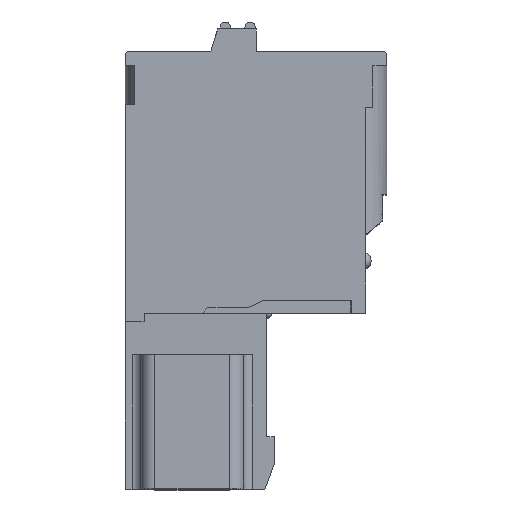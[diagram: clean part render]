
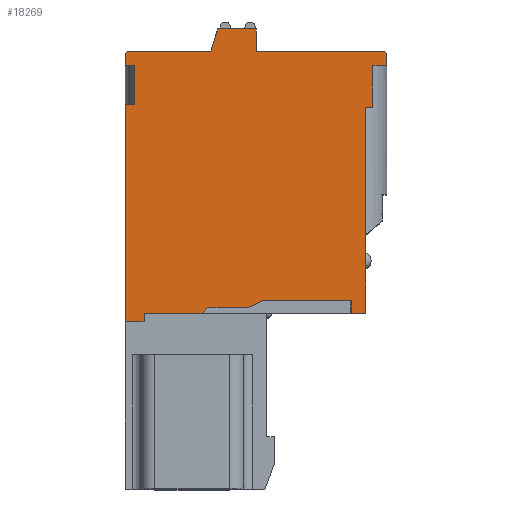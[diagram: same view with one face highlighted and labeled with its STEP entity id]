
A CAD part, top view. The second image highlights one B-rep face of the part: STEP entity #18269.
In plain terms, the highlighted planar face has unit normal (0, 0, 1).
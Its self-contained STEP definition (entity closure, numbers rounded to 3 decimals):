
#105=DIRECTION('',(-1.,0.,0.));
#106=VECTOR('',#105,7.3);
#107=CARTESIAN_POINT('',(14.8,25.1,-6.173));
#108=LINE('',#107,#106);
#219=DIRECTION('',(-1.,0.,0.));
#220=VECTOR('',#219,4.703);
#221=CARTESIAN_POINT('',(4.903,25.1,-6.173));
#222=LINE('',#221,#220);
#3667=DIRECTION('',(0.,1.,0.));
#3668=VECTOR('',#3667,0.5);
#3669=CARTESIAN_POINT('',(1.079,9.6,-6.173));
#3670=LINE('',#3669,#3668);
#3827=DIRECTION('',(1.,0.,0.));
#3828=VECTOR('',#3827,3.36);
#3829=CARTESIAN_POINT('',(1.079,10.1,-6.173));
#3830=LINE('',#3829,#3828);
#3883=DIRECTION('',(0.,1.,0.));
#3884=VECTOR('',#3883,0.7);
#3885=CARTESIAN_POINT('',(13.,10.1,-6.173));
#3886=LINE('',#3885,#3884);
#3887=DIRECTION('',(-1.,0.,0.));
#3888=VECTOR('',#3887,5.111);
#3889=CARTESIAN_POINT('',(13.,10.8,-6.173));
#3890=LINE('',#3889,#3888);
#3891=DIRECTION('',(-0.91,-0.414,0.));
#3892=VECTOR('',#3891,0.967);
#3893=CARTESIAN_POINT('',(7.889,10.8,-6.173));
#3894=LINE('',#3893,#3892);
#3895=DIRECTION('',(-1.,0.,0.));
#3896=VECTOR('',#3895,2.27);
#3897=CARTESIAN_POINT('',(7.009,10.4,-6.173));
#3898=LINE('',#3897,#3896);
#3899=DIRECTION('',(-0.707,-0.707,0.));
#3900=VECTOR('',#3899,0.424);
#3901=CARTESIAN_POINT('',(4.739,10.4,-6.173));
#3902=LINE('',#3901,#3900);
#3903=DIRECTION('',(-1.,0.,0.));
#3904=VECTOR('',#3903,1.07);
#3905=CARTESIAN_POINT('',(1.079,9.6,-6.173));
#3906=LINE('',#3905,#3904);
#3907=DIRECTION('',(-1.,0.,0.));
#3908=VECTOR('',#3907,0.009);
#3909=CARTESIAN_POINT('',(0.009,9.6,-6.173));
#3910=LINE('',#3909,#3908);
#3911=DIRECTION('',(0.,1.,0.));
#3912=VECTOR('',#3911,12.45);
#3913=CARTESIAN_POINT('',(0.,9.6,-6.173));
#3914=LINE('',#3913,#3912);
#3915=DIRECTION('',(1.,0.,0.));
#3916=VECTOR('',#3915,0.55);
#3917=CARTESIAN_POINT('',(0.,22.05,-6.173));
#3918=LINE('',#3917,#3916);
#3919=DIRECTION('',(0.,1.,0.));
#3920=VECTOR('',#3919,2.25);
#3921=CARTESIAN_POINT('',(0.55,22.05,-6.173));
#3922=LINE('',#3921,#3920);
#3923=DIRECTION('',(0.,1.,0.));
#3924=VECTOR('',#3923,0.6);
#3925=CARTESIAN_POINT('',(0.,24.3,-6.173));
#3926=LINE('',#3925,#3924);
#3927=CARTESIAN_POINT('',(0.2,24.9,-6.173));
#3928=DIRECTION('',(0.,0.,-1.));
#3929=DIRECTION('',(-1.,0.,0.));
#3930=AXIS2_PLACEMENT_3D('',#3927,#3928,#3929);
#3932=DIRECTION('',(0.292,0.956,0.));
#3933=VECTOR('',#3932,1.359);
#3934=CARTESIAN_POINT('',(4.903,25.1,-6.173));
#3935=LINE('',#3934,#3933);
#3936=DIRECTION('',(1.,0.,0.));
#3937=VECTOR('',#3936,2.2);
#3938=CARTESIAN_POINT('',(5.3,26.4,-6.173));
#3939=LINE('',#3938,#3937);
#3940=DIRECTION('',(0.,-1.,0.));
#3941=VECTOR('',#3940,1.3);
#3942=CARTESIAN_POINT('',(7.5,26.4,-6.173));
#3943=LINE('',#3942,#3941);
#3944=CARTESIAN_POINT('',(14.8,24.9,-6.173));
#3945=DIRECTION('',(0.,0.,-1.));
#3946=DIRECTION('',(0.,1.,0.));
#3947=AXIS2_PLACEMENT_3D('',#3944,#3945,#3946);
#3949=DIRECTION('',(0.,-1.,0.));
#3950=VECTOR('',#3949,0.6);
#3951=CARTESIAN_POINT('',(15.,24.9,-6.173));
#3952=LINE('',#3951,#3950);
#3953=DIRECTION('',(-1.,0.,0.));
#3954=VECTOR('',#3953,0.8);
#3955=CARTESIAN_POINT('',(15.,24.3,-6.173));
#3956=LINE('',#3955,#3954);
#3957=DIRECTION('',(0.,-1.,0.));
#3958=VECTOR('',#3957,2.4);
#3959=CARTESIAN_POINT('',(14.2,24.3,-6.173));
#3960=LINE('',#3959,#3958);
#3961=DIRECTION('',(-1.,0.,0.));
#3962=VECTOR('',#3961,0.4);
#3963=CARTESIAN_POINT('',(14.2,21.9,-6.173));
#3964=LINE('',#3963,#3962);
#3965=DIRECTION('',(0.,-1.,0.));
#3966=VECTOR('',#3965,11.8);
#3967=CARTESIAN_POINT('',(13.8,21.9,-6.173));
#3968=LINE('',#3967,#3966);
#3969=DIRECTION('',(-1.,0.,0.));
#3970=VECTOR('',#3969,0.8);
#3971=CARTESIAN_POINT('',(13.8,10.1,-6.173));
#3972=LINE('',#3971,#3970);
#5326=DIRECTION('',(1.,0.,0.));
#5327=VECTOR('',#5326,0.55);
#5328=CARTESIAN_POINT('',(0.,24.3,-6.173));
#5329=LINE('',#5328,#5327);
#7321=CARTESIAN_POINT('',(0.009,9.6,-6.173));
#7322=VERTEX_POINT('',#7321);
#7323=CARTESIAN_POINT('',(0.,9.6,-6.173));
#7324=VERTEX_POINT('',#7323);
#7325=CARTESIAN_POINT('',(0.,22.05,-6.173));
#7326=VERTEX_POINT('',#7325);
#7327=CARTESIAN_POINT('',(0.55,22.05,-6.173));
#7328=VERTEX_POINT('',#7327);
#7329=CARTESIAN_POINT('',(0.55,24.3,-6.173));
#7330=VERTEX_POINT('',#7329);
#7331=CARTESIAN_POINT('',(0.,24.3,-6.173));
#7332=VERTEX_POINT('',#7331);
#7333=CARTESIAN_POINT('',(0.,24.9,-6.173));
#7334=VERTEX_POINT('',#7333);
#7335=CARTESIAN_POINT('',(0.2,25.1,-6.173));
#7336=VERTEX_POINT('',#7335);
#7337=CARTESIAN_POINT('',(4.903,25.1,-6.173));
#7338=VERTEX_POINT('',#7337);
#7339=CARTESIAN_POINT('',(5.3,26.4,-6.173));
#7340=VERTEX_POINT('',#7339);
#7341=CARTESIAN_POINT('',(7.5,26.4,-6.173));
#7342=VERTEX_POINT('',#7341);
#7343=CARTESIAN_POINT('',(7.5,25.1,-6.173));
#7344=VERTEX_POINT('',#7343);
#7345=CARTESIAN_POINT('',(14.8,25.1,-6.173));
#7346=VERTEX_POINT('',#7345);
#7347=CARTESIAN_POINT('',(15.,24.9,-6.173));
#7348=VERTEX_POINT('',#7347);
#7349=CARTESIAN_POINT('',(15.,24.3,-6.173));
#7350=VERTEX_POINT('',#7349);
#7351=CARTESIAN_POINT('',(14.2,24.3,-6.173));
#7352=VERTEX_POINT('',#7351);
#7353=CARTESIAN_POINT('',(14.2,21.9,-6.173));
#7354=VERTEX_POINT('',#7353);
#7355=CARTESIAN_POINT('',(13.8,21.9,-6.173));
#7356=VERTEX_POINT('',#7355);
#7357=CARTESIAN_POINT('',(13.8,10.1,-6.173));
#7358=VERTEX_POINT('',#7357);
#7359=CARTESIAN_POINT('',(13.,10.1,-6.173));
#7360=VERTEX_POINT('',#7359);
#8590=CARTESIAN_POINT('',(7.889,10.8,-6.173));
#8591=CARTESIAN_POINT('',(7.009,10.4,-6.173));
#8592=VERTEX_POINT('',#8590);
#8593=VERTEX_POINT('',#8591);
#8594=CARTESIAN_POINT('',(4.739,10.4,-6.173));
#8595=VERTEX_POINT('',#8594);
#8604=CARTESIAN_POINT('',(1.079,9.6,-6.173));
#8605=CARTESIAN_POINT('',(1.079,10.1,-6.173));
#8606=VERTEX_POINT('',#8604);
#8607=VERTEX_POINT('',#8605);
#8627=CARTESIAN_POINT('',(13.,10.8,-6.173));
#8629=VERTEX_POINT('',#8627);
#8778=CARTESIAN_POINT('',(4.439,10.1,-6.173));
#8779=VERTEX_POINT('',#8778);
#18221=CARTESIAN_POINT('',(0.,26.4,-6.173));
#18222=DIRECTION('',(0.,0.,-1.));
#18223=DIRECTION('',(0.,-1.,0.));
#18224=AXIS2_PLACEMENT_3D('',#18221,#18222,#18223);
#18225=PLANE('',#18224);
#18227=ORIENTED_EDGE('',*,*,#18226,.T.);
#18228=ORIENTED_EDGE('',*,*,#18077,.T.);
#18229=ORIENTED_EDGE('',*,*,#18190,.T.);
#18230=ORIENTED_EDGE('',*,*,#18215,.T.);
#18231=ORIENTED_EDGE('',*,*,#18145,.T.);
#18232=ORIENTED_EDGE('',*,*,#18119,.F.);
#18233=ORIENTED_EDGE('',*,*,#17961,.F.);
#18234=ORIENTED_EDGE('',*,*,#17875,.T.);
#18235=ORIENTED_EDGE('',*,*,#9795,.T.);
#18236=ORIENTED_EDGE('',*,*,#9750,.T.);
#18238=ORIENTED_EDGE('',*,*,#18237,.T.);
#18240=ORIENTED_EDGE('',*,*,#18239,.T.);
#18242=ORIENTED_EDGE('',*,*,#18241,.F.);
#18243=ORIENTED_EDGE('',*,*,#9394,.T.);
#18244=ORIENTED_EDGE('',*,*,#9377,.T.);
#18245=ORIENTED_EDGE('',*,*,#9324,.F.);
#18247=ORIENTED_EDGE('',*,*,#18246,.T.);
#18249=ORIENTED_EDGE('',*,*,#18248,.T.);
#18251=ORIENTED_EDGE('',*,*,#18250,.T.);
#18252=ORIENTED_EDGE('',*,*,#9155,.F.);
#18254=ORIENTED_EDGE('',*,*,#18253,.T.);
#18256=ORIENTED_EDGE('',*,*,#18255,.T.);
#18258=ORIENTED_EDGE('',*,*,#18257,.T.);
#18260=ORIENTED_EDGE('',*,*,#18259,.T.);
#18262=ORIENTED_EDGE('',*,*,#18261,.T.);
#18264=ORIENTED_EDGE('',*,*,#18263,.T.);
#18266=ORIENTED_EDGE('',*,*,#18265,.T.);
#18267=EDGE_LOOP('',(#18227,#18228,#18229,#18230,#18231,#18232,#18233,#18234,
#18235,#18236,#18238,#18240,#18242,#18243,#18244,#18245,#18247,#18249,#18251,
#18252,#18254,#18256,#18258,#18260,#18262,#18264,#18266));
#18268=FACE_OUTER_BOUND('',#18267,.F.);
#18269=ADVANCED_FACE('',(#18268),#18225,.F.);
#3931=CIRCLE('',#3930,0.2);
#3948=CIRCLE('',#3947,0.2);
#9155=EDGE_CURVE('',#7346,#7344,#108,.T.);
#9324=EDGE_CURVE('',#7338,#7336,#222,.T.);
#9377=EDGE_CURVE('',#7334,#7336,#3931,.T.);
#9394=EDGE_CURVE('',#7332,#7334,#3926,.T.);
#9750=EDGE_CURVE('',#7324,#7326,#3914,.T.);
#9795=EDGE_CURVE('',#7322,#7324,#3910,.T.);
#17875=EDGE_CURVE('',#8606,#7322,#3906,.T.);
#17961=EDGE_CURVE('',#8606,#8607,#3670,.T.);
#18077=EDGE_CURVE('',#8629,#8592,#3890,.T.);
#18119=EDGE_CURVE('',#8607,#8779,#3830,.T.);
#18145=EDGE_CURVE('',#8595,#8779,#3902,.T.);
#18190=EDGE_CURVE('',#8592,#8593,#3894,.T.);
#18215=EDGE_CURVE('',#8593,#8595,#3898,.T.);
#18226=EDGE_CURVE('',#7360,#8629,#3886,.T.);
#18237=EDGE_CURVE('',#7326,#7328,#3918,.T.);
#18239=EDGE_CURVE('',#7328,#7330,#3922,.T.);
#18241=EDGE_CURVE('',#7332,#7330,#5329,.T.);
#18246=EDGE_CURVE('',#7338,#7340,#3935,.T.);
#18248=EDGE_CURVE('',#7340,#7342,#3939,.T.);
#18250=EDGE_CURVE('',#7342,#7344,#3943,.T.);
#18253=EDGE_CURVE('',#7346,#7348,#3948,.T.);
#18255=EDGE_CURVE('',#7348,#7350,#3952,.T.);
#18257=EDGE_CURVE('',#7350,#7352,#3956,.T.);
#18259=EDGE_CURVE('',#7352,#7354,#3960,.T.);
#18261=EDGE_CURVE('',#7354,#7356,#3964,.T.);
#18263=EDGE_CURVE('',#7356,#7358,#3968,.T.);
#18265=EDGE_CURVE('',#7358,#7360,#3972,.T.);
